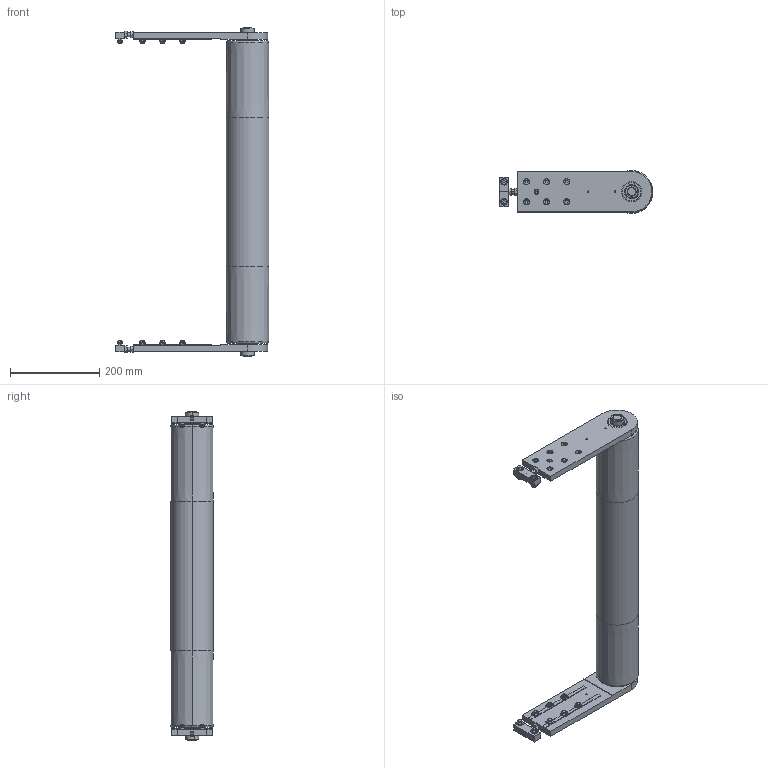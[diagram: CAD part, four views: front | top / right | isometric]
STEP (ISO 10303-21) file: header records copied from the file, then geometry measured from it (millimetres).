
FILE_DESCRIPTION (( 'STEP AP203' ), '1' );
FILE_NAME ('084.095.KI.650.STEP', '2018-03-14T07:51:11', ( 'Localadmin' ), ( 'Microsoft' ), 'SwSTEP 2.0', 'SolidWorks 2016', '' );
FILE_SCHEMA (( 'CONFIG_CONTROL_DESIGN' ));
Length unit declared in the file: millimetre
Products named in the file (1): 084.095.KI.650
Bounding box: 343.5 x 95 x 735 mm (x, y, z)
Surface area: 393347.2 mm2 (no closed solid volume)
Topology: 0 solids, 65 shells, 658 faces, 1950 edges, 1348 vertices
Faces by surface type: plane 400, cylinder 122, torus 68, cone 52, bspline 12, sphere 4
Entity records: 23115 total; most frequent: CARTESIAN_POINT 5549, DIRECTION 3696, ORIENTED_EDGE 3292, EDGE_CURVE 1942, VERTEX_POINT 1344, AXIS2_PLACEMENT_3D 1331, VECTOR 1034, LINE 1034
